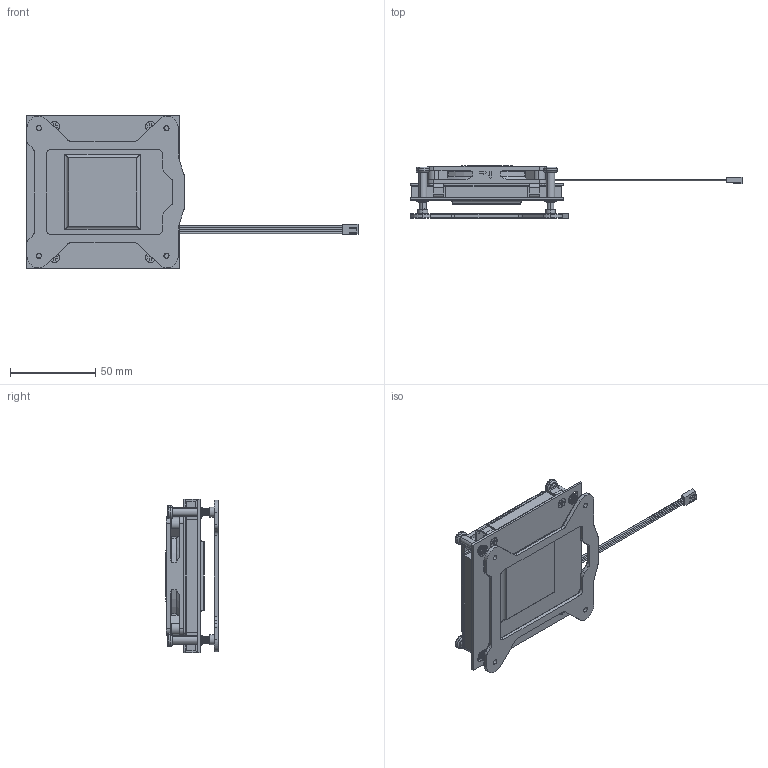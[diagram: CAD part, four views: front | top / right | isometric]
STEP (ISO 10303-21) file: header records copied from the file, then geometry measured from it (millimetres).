
FILE_DESCRIPTION((''),'2;1');
FILE_NAME('RG3114_Z_-002_ME_ASM','2022-11-21T',('User'),(''),'PRO/ENGINEER BY PARAMETRIC TECHNOLOGY CORPORATION, 2017170','PRO/ENGINEER BY PARAMETRIC TECHNOLOGY CORPORATION, 2017170','');
FILE_SCHEMA(('CONFIG_CONTROL_DESIGN'));
Products named in the file (24): PRT0001_7_1_1_4; ASM0001_ASM_5_ASM_ASM_1_ASM_4_ASM; 1-0700030881-A_1_4; E-RING_1_4; SCREW_ASSY_ASM_1_ASM_5_ASM; 17-HARG31X40881_ASM_1_ASM_4_ASM; FAN-COVER_RG3114_Z_1_4; M3_8L_1_4; T5_10L_SCREW_1_4; __2_1_4; __1_1_4; __3_1_4; 7009IMPELLER_3_1_ASM_1_ASM_4_ASM; R7010_2_1_1_4; R127010BUAF077AR_ASM_1_ASM_4_ASM; 4PIN_2543_CABLE__1_4; LABEL_R30_1_1_4; R127010BUAF077AR_7010FAN_ASSY_A_ASM; 850-BP1156-3_1_1; ADHESIVE_1_4; MYLAR_1_4; 850-BP1156-3_ASSY__ASM_1_ASM_1_ASM; RG3114_Z-002_ME_ASM_1_ASM; RG3114_Z_-002_ME_ASM
Assembly tree (32 placements, depth 6):
  RG3114_Z_-002_ME_ASM
    RG3114_Z-002_ME_ASM_1_ASM
      17-HARG31X40881_ASM_1_ASM_4_ASM
        ASM0001_ASM_5_ASM_ASM_1_ASM_4_ASM
          PRT0001_7_1_1_4
        SCREW_ASSY_ASM_1_ASM_5_ASM  x4
          1-0700030881-A_1_4
          E-RING_1_4
      FAN-COVER_RG3114_Z_1_4
      M3_8L_1_4  x4
      T5_10L_SCREW_1_4  x4
      R127010BUAF077AR_7010FAN_ASSY_A_ASM
        R127010BUAF077AR_ASM_1_ASM_4_ASM
          7009IMPELLER_3_1_ASM_1_ASM_4_ASM
            __2_1_4
            __1_1_4
            __3_1_4
          R7010_2_1_1_4
        4PIN_2543_CABLE__1_4
        LABEL_R30_1_1_4
      850-BP1156-3_ASSY__ASM_1_ASM_1_ASM
        850-BP1156-3_1_1
        ADHESIVE_1_4
        MYLAR_1_4
Bounding box: 195 x 30.6 x 90 mm (x, y, z)
Volume: 106898.6 mm3; surface area: 73468.7 mm2
Topology: 27 solids, 27 shells, 2797 faces, 7994 edges, 5357 vertices
Faces by surface type: plane 1697, cylinder 808, extrusion 95, cone 81, bspline 72, torus 44
Entity records: 68028 total; most frequent: CARTESIAN_POINT 19254, ORIENTED_EDGE 10268, DIRECTION 9674, EDGE_CURVE 5134, VERTEX_POINT 3473, VECTOR 3282, AXIS2_PLACEMENT_3D 3196, LINE 3187
